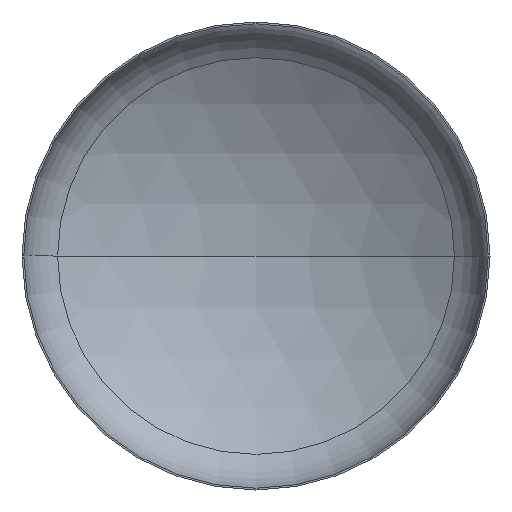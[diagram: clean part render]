
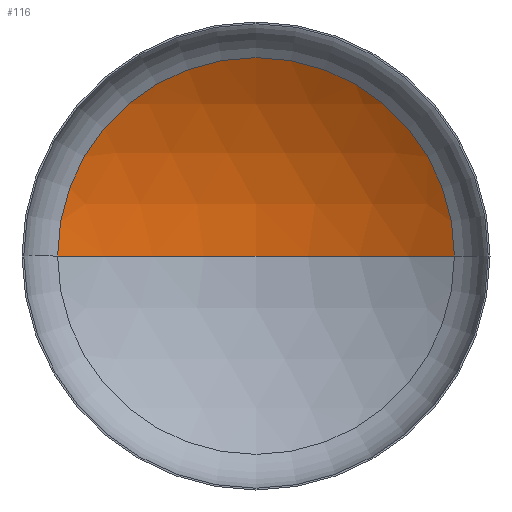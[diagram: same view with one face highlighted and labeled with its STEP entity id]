
A CAD part, front view. The second image highlights one B-rep face of the part: STEP entity #116.
In plain terms, the highlighted spherical face has radius 4400 mm.
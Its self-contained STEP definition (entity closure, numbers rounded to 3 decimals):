
#5 = VERTEX_POINT ( 'NONE', #374 ) ;
#17 = DIRECTION ( 'NONE',  ( 1., 0., 0. ) ) ;
#25 = CIRCLE ( 'NONE', #88, 4400. ) ;
#46 = DIRECTION ( 'NONE',  ( 0., 0., 1. ) ) ;
#77 = CARTESIAN_POINT ( 'NONE',  ( 0., -2944.725, 0. ) ) ;
#80 = AXIS2_PLACEMENT_3D ( 'NONE', #322, #46, #17 ) ;
#88 = AXIS2_PLACEMENT_3D ( 'NONE', #185, #189, #368 ) ;
#116 = ADVANCED_FACE ( 'NONE', ( #308 ), #320, .F. ) ;
#123 = CARTESIAN_POINT ( 'NONE',  ( 2331.814, 786.58, 0. ) ) ;
#133 = AXIS2_PLACEMENT_3D ( 'NONE', #161, #220, #222 ) ;
#145 = DIRECTION ( 'NONE',  ( 0., 0., -1. ) ) ;
#151 = AXIS2_PLACEMENT_3D ( 'NONE', #77, #145, #215 ) ;
#161 = CARTESIAN_POINT ( 'NONE',  ( 0., 786.58, 0. ) ) ;
#185 = CARTESIAN_POINT ( 'NONE',  ( 0., -2944.725, 0. ) ) ;
#189 = DIRECTION ( 'NONE',  ( 0., 0., -1. ) ) ;
#191 = EDGE_CURVE ( 'NONE', #313, #5, #294, .T. ) ;
#200 = EDGE_CURVE ( 'NONE', #274, #313, #25, .T. ) ;
#208 = CIRCLE ( 'NONE', #80, 4400. ) ;
#210 = EDGE_LOOP ( 'NONE', ( #401, #371, #329 ) ) ;
#212 = EDGE_CURVE ( 'NONE', #274, #5, #208, .T. ) ;
#215 = DIRECTION ( 'NONE',  ( -1., 0., 0. ) ) ;
#220 = DIRECTION ( 'NONE',  ( 0., -1., 0. ) ) ;
#222 = DIRECTION ( 'NONE',  ( 1., 0., 0. ) ) ;
#229 = CARTESIAN_POINT ( 'NONE',  ( 0., 1455.275, 0. ) ) ;
#274 = VERTEX_POINT ( 'NONE', #229 ) ;
#294 = CIRCLE ( 'NONE', #133, 2331.814 ) ;
#308 = FACE_OUTER_BOUND ( 'NONE', #210, .T. ) ;
#313 = VERTEX_POINT ( 'NONE', #123 ) ;
#320 = SPHERICAL_SURFACE ( 'NONE', #151, 4400. ) ;
#322 = CARTESIAN_POINT ( 'NONE',  ( 0., -2944.725, 0. ) ) ;
#329 = ORIENTED_EDGE ( 'NONE', *, *, #191, .T. ) ;
#368 = DIRECTION ( 'NONE',  ( -1., 0., 0. ) ) ;
#371 = ORIENTED_EDGE ( 'NONE', *, *, #200, .T. ) ;
#374 = CARTESIAN_POINT ( 'NONE',  ( -2331.814, 786.58, 0. ) ) ;
#401 = ORIENTED_EDGE ( 'NONE', *, *, #212, .F. ) ;
